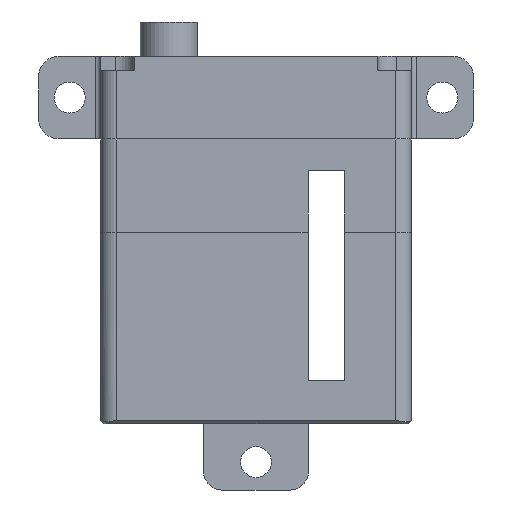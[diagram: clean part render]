
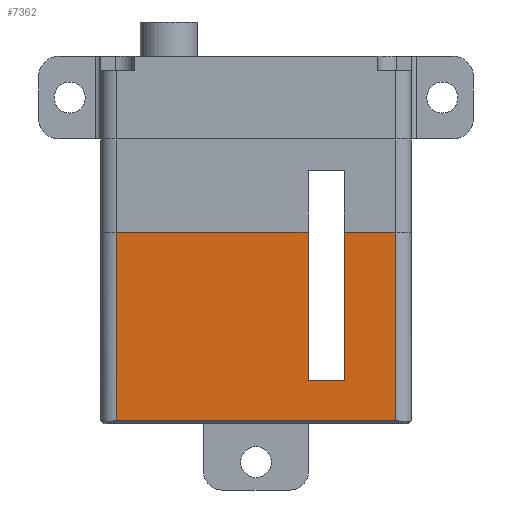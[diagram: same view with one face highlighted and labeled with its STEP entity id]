
A CAD part, front view. The second image highlights one B-rep face of the part: STEP entity #7362.
In plain terms, the highlighted planar face has unit normal (0, -1, 0).
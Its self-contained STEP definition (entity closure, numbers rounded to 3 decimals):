
#100 = DIRECTION ( 'NONE',  ( 0., 0., -1. ) ) ;
#197 = VERTEX_POINT ( 'NONE', #5171 ) ;
#284 = VERTEX_POINT ( 'NONE', #632 ) ;
#480 = EDGE_CURVE ( 'NONE', #197, #6652, #5156, .T. ) ;
#632 = CARTESIAN_POINT ( 'NONE',  ( 8.525, -5., -9. ) ) ;
#763 = DIRECTION ( 'NONE',  ( -1., 0., 0. ) ) ;
#847 = CARTESIAN_POINT ( 'NONE',  ( 5.025, -5., -23.35 ) ) ;
#904 = VECTOR ( 'NONE', #1099, 1000. ) ;
#1099 = DIRECTION ( 'NONE',  ( 1., 0., 0. ) ) ;
#1371 = CARTESIAN_POINT ( 'NONE',  ( 5.025, -5., -9. ) ) ;
#1387 = LINE ( 'NONE', #8376, #4625 ) ;
#1491 = CARTESIAN_POINT ( 'NONE',  ( 8.525, -5., -9. ) ) ;
#1598 = CARTESIAN_POINT ( 'NONE',  ( 5.025, -5., -9. ) ) ;
#1696 = DIRECTION ( 'NONE',  ( 0., -1., 0. ) ) ;
#2038 = EDGE_CURVE ( 'NONE', #6738, #7463, #5695, .T. ) ;
#2122 = EDGE_CURVE ( 'NONE', #4219, #6738, #4850, .T. ) ;
#2209 = ORIENTED_EDGE ( 'NONE', *, *, #480, .T. ) ;
#2304 = DIRECTION ( 'NONE',  ( 0., 0., -1. ) ) ;
#2319 = VECTOR ( 'NONE', #6169, 1000. ) ;
#2334 = CARTESIAN_POINT ( 'NONE',  ( 15., -5., -9. ) ) ;
#2417 = LINE ( 'NONE', #4325, #6559 ) ;
#2626 = ORIENTED_EDGE ( 'NONE', *, *, #6725, .T. ) ;
#2952 = CARTESIAN_POINT ( 'NONE',  ( 15., -5., -9. ) ) ;
#2977 = CARTESIAN_POINT ( 'NONE',  ( 13.5, -5., -27.2 ) ) ;
#3082 = VECTOR ( 'NONE', #8296, 1000. ) ;
#3148 = ORIENTED_EDGE ( 'NONE', *, *, #2038, .T. ) ;
#3308 = ORIENTED_EDGE ( 'NONE', *, *, #2122, .T. ) ;
#3403 = DIRECTION ( 'NONE',  ( 0., 0., 1. ) ) ;
#3511 = VECTOR ( 'NONE', #3403, 1000. ) ;
#3676 = ORIENTED_EDGE ( 'NONE', *, *, #7151, .T. ) ;
#3990 = CARTESIAN_POINT ( 'NONE',  ( -13.5, -5., -27.2 ) ) ;
#4219 = VERTEX_POINT ( 'NONE', #3990 ) ;
#4269 = VECTOR ( 'NONE', #4793, 1000. ) ;
#4294 = DIRECTION ( 'NONE',  ( 0., 0., -1. ) ) ;
#4325 = CARTESIAN_POINT ( 'NONE',  ( -13.5, -5., -9. ) ) ;
#4625 = VECTOR ( 'NONE', #763, 1000. ) ;
#4793 = DIRECTION ( 'NONE',  ( 0., 0., 1. ) ) ;
#4850 = LINE ( 'NONE', #5107, #904 ) ;
#5105 = AXIS2_PLACEMENT_3D ( 'NONE', #2334, #1696, #2304 ) ;
#5107 = CARTESIAN_POINT ( 'NONE',  ( 15., -5., -27.2 ) ) ;
#5156 = LINE ( 'NONE', #8213, #3082 ) ;
#5171 = CARTESIAN_POINT ( 'NONE',  ( 8.525, -5., -23.35 ) ) ;
#5467 = EDGE_CURVE ( 'NONE', #7463, #284, #1387, .T. ) ;
#5536 = EDGE_CURVE ( 'NONE', #284, #197, #7274, .T. ) ;
#5695 = LINE ( 'NONE', #6052, #3511 ) ;
#5919 = FACE_OUTER_BOUND ( 'NONE', #8214, .T. ) ;
#6052 = CARTESIAN_POINT ( 'NONE',  ( 13.5, -5., -9. ) ) ;
#6120 = EDGE_CURVE ( 'NONE', #7727, #6828, #6668, .T. ) ;
#6169 = DIRECTION ( 'NONE',  ( -1., 0., 0. ) ) ;
#6279 = PLANE ( 'NONE',  #5105 ) ;
#6478 = CARTESIAN_POINT ( 'NONE',  ( -13.5, -5., -9. ) ) ;
#6540 = LINE ( 'NONE', #1371, #4269 ) ;
#6559 = VECTOR ( 'NONE', #4294, 1000. ) ;
#6652 = VERTEX_POINT ( 'NONE', #847 ) ;
#6668 = LINE ( 'NONE', #2952, #2319 ) ;
#6725 = EDGE_CURVE ( 'NONE', #6828, #4219, #2417, .T. ) ;
#6738 = VERTEX_POINT ( 'NONE', #2977 ) ;
#6828 = VERTEX_POINT ( 'NONE', #6478 ) ;
#7067 = CARTESIAN_POINT ( 'NONE',  ( 13.5, -5., -9. ) ) ;
#7151 = EDGE_CURVE ( 'NONE', #6652, #7727, #6540, .T. ) ;
#7274 = LINE ( 'NONE', #1491, #7703 ) ;
#7362 = ADVANCED_FACE ( 'NONE', ( #5919 ), #6279, .T. ) ;
#7463 = VERTEX_POINT ( 'NONE', #7067 ) ;
#7703 = VECTOR ( 'NONE', #100, 1000. ) ;
#7727 = VERTEX_POINT ( 'NONE', #1598 ) ;
#7791 = ORIENTED_EDGE ( 'NONE', *, *, #6120, .T. ) ;
#8213 = CARTESIAN_POINT ( 'NONE',  ( 15., -5., -23.35 ) ) ;
#8214 = EDGE_LOOP ( 'NONE', ( #8557, #2209, #3676, #7791, #2626, #3308, #3148, #8426 ) ) ;
#8296 = DIRECTION ( 'NONE',  ( -1., 0., 0. ) ) ;
#8376 = CARTESIAN_POINT ( 'NONE',  ( 15., -5., -9. ) ) ;
#8426 = ORIENTED_EDGE ( 'NONE', *, *, #5467, .T. ) ;
#8557 = ORIENTED_EDGE ( 'NONE', *, *, #5536, .T. ) ;
